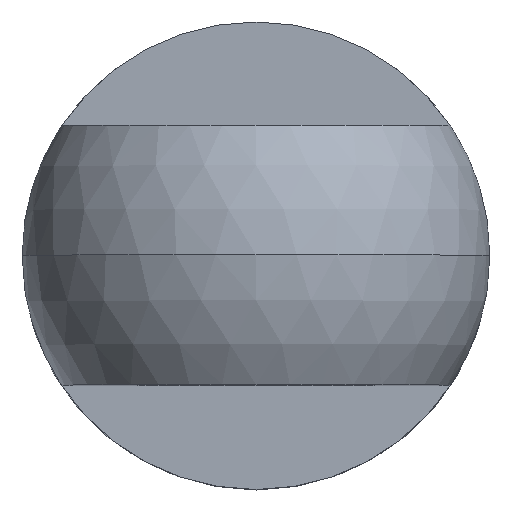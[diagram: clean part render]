
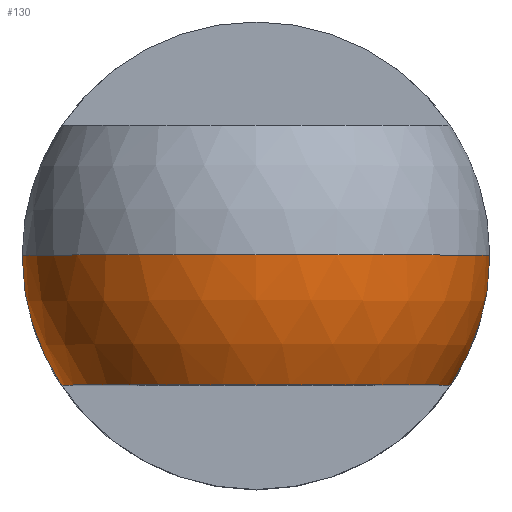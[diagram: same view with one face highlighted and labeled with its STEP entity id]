
A CAD part, top view. The second image highlights one B-rep face of the part: STEP entity #130.
In plain terms, the highlighted spherical face has radius 9 mm.
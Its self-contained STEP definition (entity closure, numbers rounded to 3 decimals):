
#43 = DIRECTION ( 'NONE',  ( 1., 0., 0. ) ) ;
#45 = SPHERICAL_SURFACE ( 'NONE', #393, 9. ) ;
#46 = EDGE_CURVE ( 'NONE', #349, #198, #382, .T. ) ;
#91 = CARTESIAN_POINT ( 'NONE',  ( 0., 0., 22. ) ) ;
#99 = DIRECTION ( 'NONE',  ( 0., -1., 0. ) ) ;
#107 = CARTESIAN_POINT ( 'NONE',  ( 9., 0., 22. ) ) ;
#109 = CIRCLE ( 'NONE', #630, 9. ) ;
#111 = EDGE_CURVE ( 'NONE', #161, #349, #109, .T. ) ;
#130 = ADVANCED_FACE ( 'NONE', ( #453 ), #45, .T. ) ;
#136 = VERTEX_POINT ( 'NONE', #155 ) ;
#155 = CARTESIAN_POINT ( 'NONE',  ( -9., 0., 22. ) ) ;
#161 = VERTEX_POINT ( 'NONE', #245 ) ;
#171 = ORIENTED_EDGE ( 'NONE', *, *, #492, .T. ) ;
#184 = CIRCLE ( 'NONE', #472, 9. ) ;
#190 = DIRECTION ( 'NONE',  ( -1., 0., 0. ) ) ;
#198 = VERTEX_POINT ( 'NONE', #344 ) ;
#203 = ORIENTED_EDGE ( 'NONE', *, *, #508, .T. ) ;
#227 = DIRECTION ( 'NONE',  ( 1., 0., 0. ) ) ;
#236 = DIRECTION ( 'NONE',  ( 0., 0., 1. ) ) ;
#245 = CARTESIAN_POINT ( 'NONE',  ( 0., 0., 31. ) ) ;
#265 = CARTESIAN_POINT ( 'NONE',  ( 0., -5., 22. ) ) ;
#269 = EDGE_LOOP ( 'NONE', ( #579, #203, #495, #171, #317 ) ) ;
#307 = AXIS2_PLACEMENT_3D ( 'NONE', #265, #612, #364 ) ;
#317 = ORIENTED_EDGE ( 'NONE', *, *, #46, .F. ) ;
#321 = EDGE_CURVE ( 'NONE', #596, #136, #184, .T. ) ;
#323 = DIRECTION ( 'NONE',  ( 0., -1., 0. ) ) ;
#335 = DIRECTION ( 'NONE',  ( 0., 0., -1. ) ) ;
#344 = CARTESIAN_POINT ( 'NONE',  ( 7.483, -5., 22. ) ) ;
#349 = VERTEX_POINT ( 'NONE', #107 ) ;
#364 = DIRECTION ( 'NONE',  ( 0., 0., 1. ) ) ;
#382 = CIRCLE ( 'NONE', #606, 9. ) ;
#393 = AXIS2_PLACEMENT_3D ( 'NONE', #493, #99, #43 ) ;
#425 = CARTESIAN_POINT ( 'NONE',  ( 0., 0., 22. ) ) ;
#444 = CARTESIAN_POINT ( 'NONE',  ( 0., 0., 22. ) ) ;
#453 = FACE_OUTER_BOUND ( 'NONE', #269, .T. ) ;
#472 = AXIS2_PLACEMENT_3D ( 'NONE', #444, #600, #498 ) ;
#492 = EDGE_CURVE ( 'NONE', #596, #198, #602, .T. ) ;
#493 = CARTESIAN_POINT ( 'NONE',  ( 0., 0., 22. ) ) ;
#495 = ORIENTED_EDGE ( 'NONE', *, *, #321, .F. ) ;
#498 = DIRECTION ( 'NONE',  ( -1., 0., 0. ) ) ;
#508 = EDGE_CURVE ( 'NONE', #161, #136, #564, .T. ) ;
#518 = CARTESIAN_POINT ( 'NONE',  ( -7.483, -5., 22. ) ) ;
#523 = DIRECTION ( 'NONE',  ( 0., 1., 0. ) ) ;
#564 = CIRCLE ( 'NONE', #567, 9. ) ;
#567 = AXIS2_PLACEMENT_3D ( 'NONE', #425, #323, #227 ) ;
#579 = ORIENTED_EDGE ( 'NONE', *, *, #111, .F. ) ;
#580 = CARTESIAN_POINT ( 'NONE',  ( 0., 0., 22. ) ) ;
#596 = VERTEX_POINT ( 'NONE', #518 ) ;
#600 = DIRECTION ( 'NONE',  ( 0., 0., -1. ) ) ;
#602 = CIRCLE ( 'NONE', #307, 7.483 ) ;
#606 = AXIS2_PLACEMENT_3D ( 'NONE', #91, #335, #190 ) ;
#612 = DIRECTION ( 'NONE',  ( 0., 1., 0. ) ) ;
#630 = AXIS2_PLACEMENT_3D ( 'NONE', #580, #523, #236 ) ;
